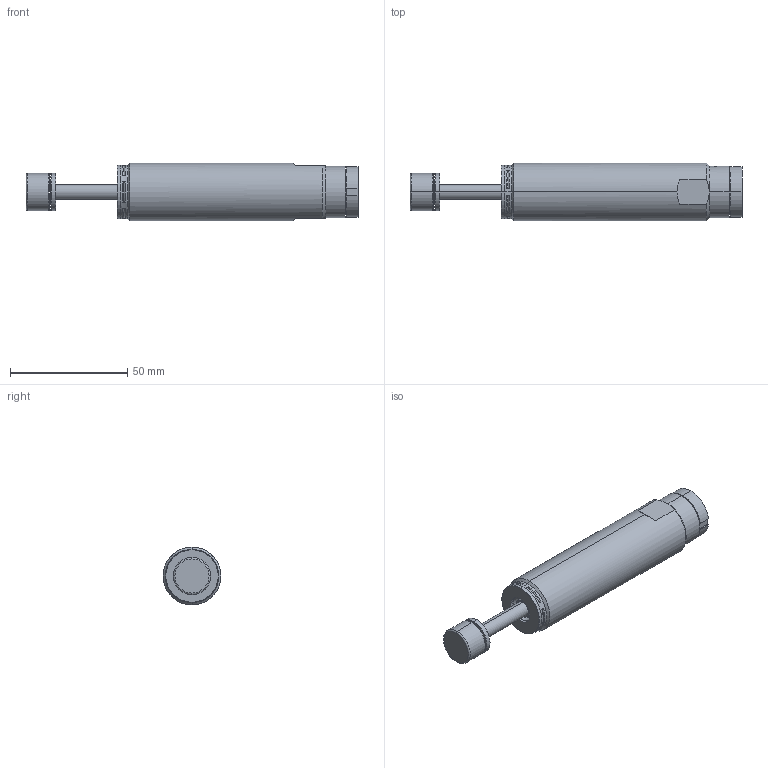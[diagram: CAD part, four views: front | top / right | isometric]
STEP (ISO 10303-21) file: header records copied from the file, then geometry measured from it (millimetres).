
FILE_DESCRIPTION (( 'STEP AP214' ), '1' );
FILE_NAME ('ECO OEM 1.0B.STEP', '2016-11-18T17:49:01', ( '' ), ( '' ), 'SwSTEP 2.0', 'SolidWorks 2011', '' );
FILE_SCHEMA (( 'AUTOMOTIVE_DESIGN' ));
Length unit declared in the file: inch
Products named in the file (1): ECO OEM 1.0B
Bounding box: 141.6 x 24.64 x 24.64 mm (x, y, z)
Surface area: 12015.1 mm2 (no closed solid volume)
Topology: 0 solids, 13 shells, 127 faces, 320 edges, 215 vertices
Faces by surface type: plane 54, cylinder 27, cone 26, torus 18, sphere 2
Entity records: 5645 total; most frequent: CARTESIAN_POINT 865, DIRECTION 707, ORIENTED_EDGE 564, EDGE_CURVE 315, AXIS2_PLACEMENT_3D 286, VERTEX_POINT 212, CIRCLE 158, EDGE_LOOP 151
